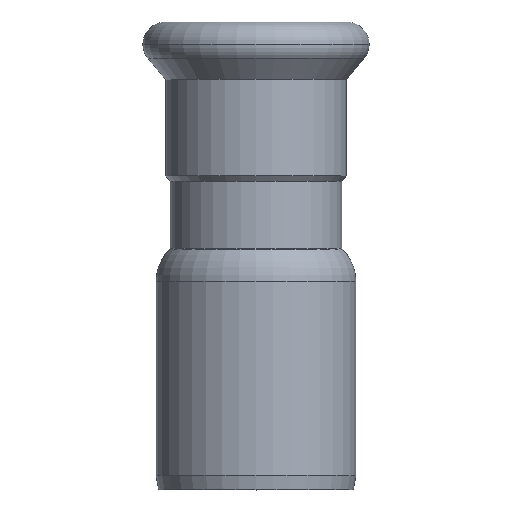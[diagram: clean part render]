
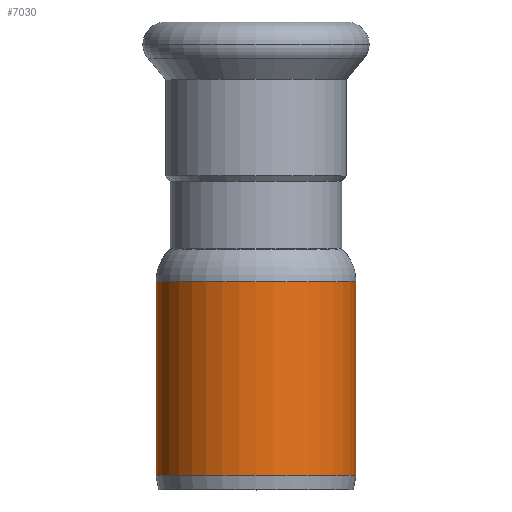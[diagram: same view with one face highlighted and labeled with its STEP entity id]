
A CAD part, top view. The second image highlights one B-rep face of the part: STEP entity #7030.
In plain terms, the highlighted cylindrical face has radius 14 mm (diameter 28 mm), a partial arc.
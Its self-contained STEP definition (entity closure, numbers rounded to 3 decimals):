
#110=CARTESIAN_POINT('',(-188.976,28.728,0.));
#120=VERTEX_POINT('',#110);
#170=CARTESIAN_POINT('',(-202.976,28.728,0.));
#180=DIRECTION('',(0.,-1.,0.));
#190=DIRECTION('',(-1.,0.,0.));
#200=AXIS2_PLACEMENT_3D('',#170,#180,#190);
#210=CIRCLE('',#200,14.);
#220=CARTESIAN_POINT('',(-216.976,28.728,0.));
#230=VERTEX_POINT('',#220);
#240=EDGE_CURVE('',#120,#230,#210,.T.);
#1540=CARTESIAN_POINT('',(-188.976,1.621,0.));
#1550=VERTEX_POINT('',#1540);
#1580=CARTESIAN_POINT('',(-202.976,1.621,0.));
#1590=DIRECTION('',(0.,-1.,0.));
#1600=DIRECTION('',(-1.,0.,0.));
#1610=AXIS2_PLACEMENT_3D('',#1580,#1590,#1600);
#1620=CIRCLE('',#1610,14.);
#1630=CARTESIAN_POINT('',(-216.976,1.621,
0.));
#1640=VERTEX_POINT('',#1630);
#1770=CARTESIAN_POINT('',(-202.976,33.421,0.));
#1780=DIRECTION('',(0.,-1.,0.));
#1790=DIRECTION('',(1.,0.,0.));
#1800=AXIS2_PLACEMENT_3D('',#1770,#1780,#1790);
#1810=CYLINDRICAL_SURFACE('',#1800,14.);
#1820=CARTESIAN_POINT('',(-188.976,33.421,0.));
#1830=DIRECTION('',(0.,-1.,0.));
#1840=VECTOR('',#1830,1.);
#1850=LINE('',#1820,#1840);
#1860=EDGE_CURVE('',#120,#1550,#1850,.T.);
#1900=CARTESIAN_POINT('',(-216.976,33.421,
0.));
#1910=DIRECTION('',(0.,-1.,0.));
#1920=VECTOR('',#1910,1.);
#1930=LINE('',#1900,#1920);
#1940=EDGE_CURVE('',#230,#1640,#1930,.T.);
#6740=EDGE_CURVE('',#1550,#1640,#1620,.T.);
#6970=ORIENTED_EDGE('',*,*,#1860,.F.);
#6980=ORIENTED_EDGE('',*,*,#6740,.F.);
#6990=ORIENTED_EDGE('',*,*,#1940,.T.);
#7000=ORIENTED_EDGE('',*,*,#240,.T.);
#7010=EDGE_LOOP('',(#7000,#6990,#6980,#6970));
#7020=FACE_OUTER_BOUND('',#7010,.T.);
#7030=ADVANCED_FACE('',(#7020),#1810,.T.);
